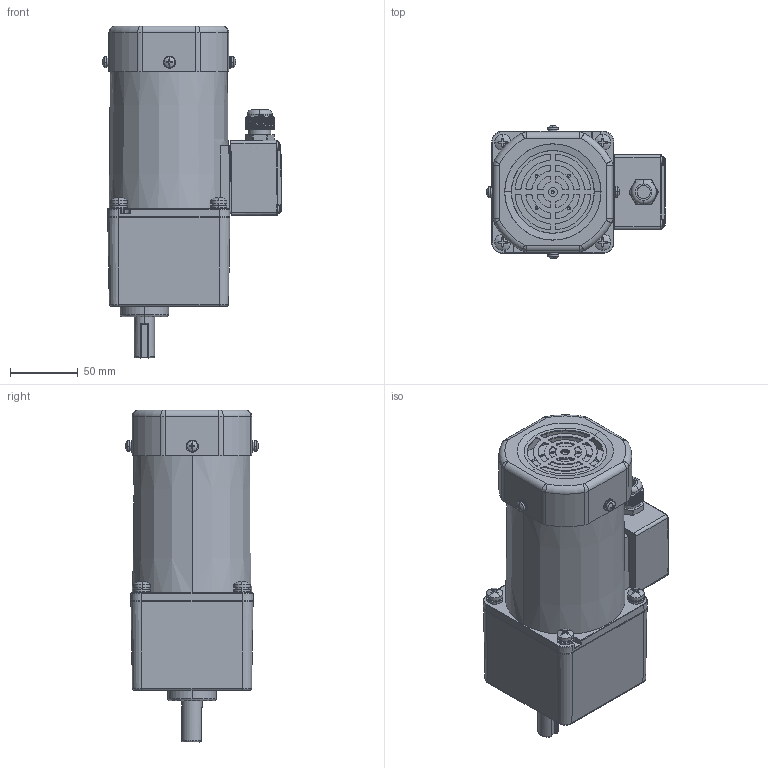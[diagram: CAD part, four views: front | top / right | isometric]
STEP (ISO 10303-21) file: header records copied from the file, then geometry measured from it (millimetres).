
FILE_DESCRIPTION (( 'STEP AP203' ), '1' );
FILE_NAME ('5IK120GU-CFT(5GU3KB-200KB).STEP', '2022-11-01T00:14:54', ( 'Windows User' ), ( 'P R C' ), 'SwSTEP 2.0', 'SolidWorks 2019', '' );
FILE_SCHEMA (( 'CONFIG_CONTROL_DESIGN' ));
Length unit declared in the file: millimetre
Products named in the file (14): 葩璃 (5) ^_JXH-1_5IK90A-CFT_5IK120GU-CFT(5GU3KB-200KB)(2)_5IK120GU-CFT(5GU3KB-200KB); 90FZ^5IK90A-CFT_5IK120GU-CFT(5GU3KB-200KB)(2)_5IK120GU-CFT(5GU3KB-200KB); JXH-1^5IK90A-CFT_5IK120GU-CFT(5GU3KB-200KB)(2)_5IK120GU-CFT(5GU3KB-200KB); ^_JXH-1_5IK90A-CFT_5IK120GU-CFT(5GU3KB-200KB)(2)_5IK120GU-CFT(5GU3KB-200KB); 5IK90A-CFT^5IK120GU-CFT(5GU3KB-200KB)(2)_5IK120GU-CFT(5GU3KB-200KB); 葩璃 (2) ^_JXH-1_5IK90A-CFT_5IK120GU-CFT(5GU3KB-200KB)(2)_5IK120GU-CFT(5GU3KB-200KB); 90TSJXHJK^5IK90A-CFT_5IK120GU-CFT(5GU3KB-200KB)(2)_5IK120GU-CFT(5GU3KB-200KB); 葩璃 (6) ^_JXH-1_5IK90A-CFT_5IK120GU-CFT(5GU3KB-200KB)(2)_5IK120GU-CFT(5GU3KB-200KB); ^JXH-1_5IK90A-CFT_5IK120GU-CFT(5GU3KB-200KB)(2)_5IK120GU-CFT(5GU3KB-200KB); 5IK120GU-CFT(5GU3KB-200KB); 5GU3KB-200KB; 5IK120GU-CFT(5GU3KB-200KB)(2)^5IK120GU-CFT(5GU3KB-200KB); 葩璃 (3) ^_JXH-1_5IK90A-CFT_5IK120GU-CFT(5GU3KB-200KB)(2)_5IK120GU-CFT(5GU3KB-200KB); 葩璃 (4) ^_JXH-1_5IK90A-CFT_5IK120GU-CFT(5GU3KB-200KB)(2)_5IK120GU-CFT(5GU3KB-200KB)
Assembly tree (13 placements, depth 6):
  5IK120GU-CFT(5GU3KB-200KB)
    5IK120GU-CFT(5GU3KB-200KB)(2)^5IK120GU-CFT(5GU3KB-200KB)
      5IK90A-CFT^5IK120GU-CFT(5GU3KB-200KB)(2)_5IK120GU-CFT(5GU3KB-200KB)
        JXH-1^5IK90A-CFT_5IK120GU-CFT(5GU3KB-200KB)(2)_5IK120GU-CFT(5GU3KB-200KB)
          ^JXH-1_5IK90A-CFT_5IK120GU-CFT(5GU3KB-200KB)(2)_5IK120GU-CFT(5GU3KB-200KB)
            ^_JXH-1_5IK90A-CFT_5IK120GU-CFT(5GU3KB-200KB)(2)_5IK120GU-CFT(5GU3KB-200KB)
            葩璃 (2) ^_JXH-1_5IK90A-CFT_5IK120GU-CFT(5GU3KB-200KB)(2)_5IK120GU-CFT(5GU3KB-200KB)
            葩璃 (3) ^_JXH-1_5IK90A-CFT_5IK120GU-CFT(5GU3KB-200KB)(2)_5IK120GU-CFT(5GU3KB-200KB)
            葩璃 (4) ^_JXH-1_5IK90A-CFT_5IK120GU-CFT(5GU3KB-200KB)(2)_5IK120GU-CFT(5GU3KB-200KB)
            葩璃 (5) ^_JXH-1_5IK90A-CFT_5IK120GU-CFT(5GU3KB-200KB)(2)_5IK120GU-CFT(5GU3KB-200KB)
            葩璃 (6) ^_JXH-1_5IK90A-CFT_5IK120GU-CFT(5GU3KB-200KB)(2)_5IK120GU-CFT(5GU3KB-200KB)
        90TSJXHJK^5IK90A-CFT_5IK120GU-CFT(5GU3KB-200KB)(2)_5IK120GU-CFT(5GU3KB-200KB)
        90FZ^5IK90A-CFT_5IK120GU-CFT(5GU3KB-200KB)(2)_5IK120GU-CFT(5GU3KB-200KB)
    5GU3KB-200KB
Bounding box: 131.82 x 98.11 x 244.5 mm (x, y, z)
Volume: 809946.1 mm3; surface area: 198974.3 mm2
Topology: 36 solids, 37 shells, 1930 faces, 4920 edges, 3091 vertices
Faces by surface type: cylinder 711, plane 494, cone 416, torus 159, bspline 78, sphere 72
Entity records: 67515 total; most frequent: CARTESIAN_POINT 18697, DIRECTION 10603, ORIENTED_EDGE 9780, EDGE_CURVE 4890, AXIS2_PLACEMENT_3D 4399, VERTEX_POINT 3091, CIRCLE 2527, EDGE_LOOP 2055
